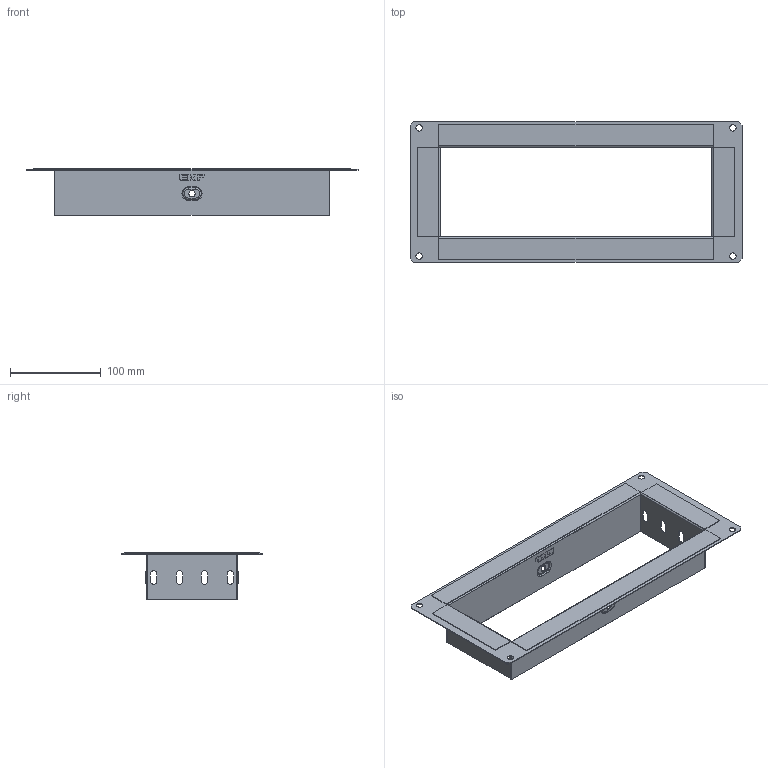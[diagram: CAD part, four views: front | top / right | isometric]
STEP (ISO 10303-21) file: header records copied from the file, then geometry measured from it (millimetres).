
FILE_DESCRIPTION (( 'STEP AP203' ), '1' );
FILE_NAME ('f100300_捘.STEP', '2020-01-23T12:29:45', ( '' ), ( '' ), 'SwSTEP 2.0', 'SolidWorks 2016', '' );
FILE_SCHEMA (( 'CONFIG_CONTROL_DESIGN' ));
Length unit declared in the file: millimetre
Products named in the file (9): f100300_1; f50300_2; f100300_3; f100300_捘
Assembly tree (5 placements, depth 2):
  f100300_1
  f50300_2
  f50300_2
  f100300_3
  f100300_3
Bounding box: 365 x 155 x 51.5 mm (x, y, z)
Volume: 67914.8 mm3; surface area: 173361.9 mm2
Topology: 5 solids, 5 shells, 326 faces, 852 edges, 552 vertices
Faces by surface type: plane 220, cylinder 72, bspline 18, torus 16
Entity records: 6612 total; most frequent: CARTESIAN_POINT 1418, ORIENTED_EDGE 912, DIRECTION 878, EDGE_CURVE 456, LINE 346, VECTOR 346, VERTEX_POINT 296, AXIS2_PLACEMENT_3D 266
